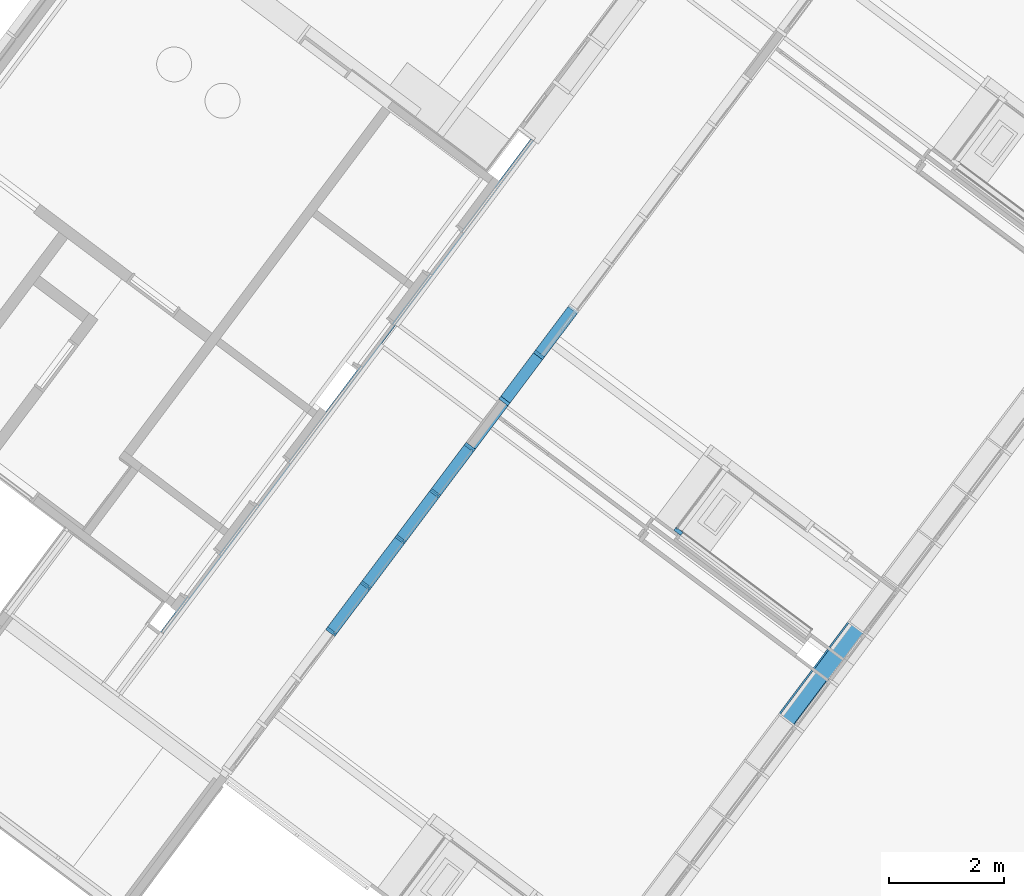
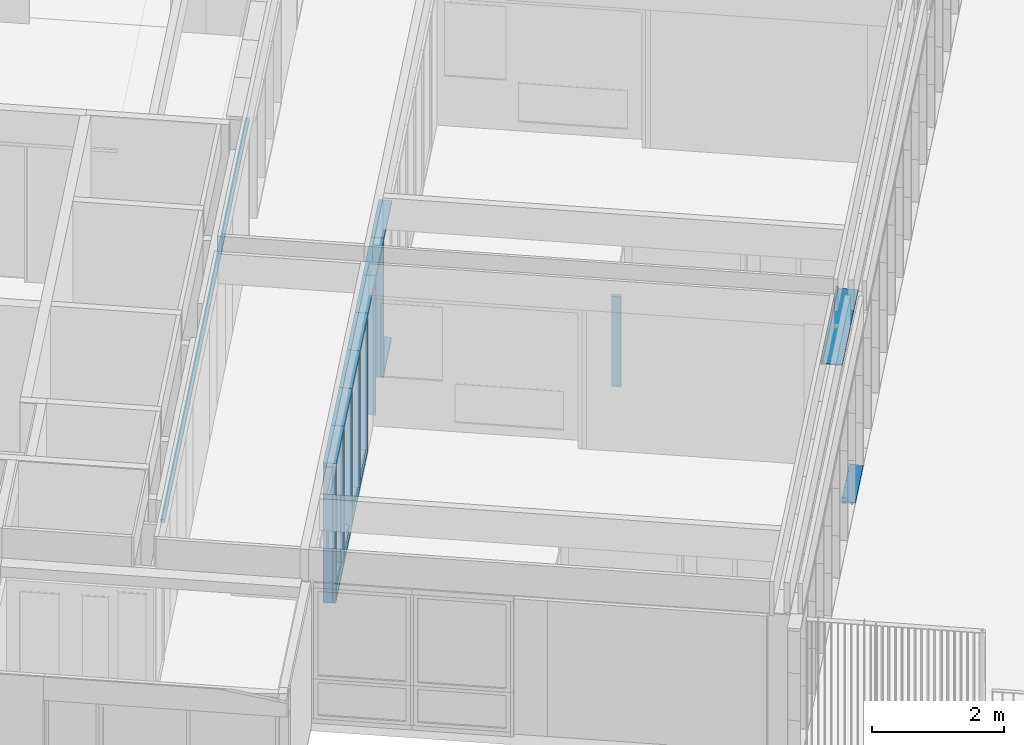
# One storey, part 12 of 243: 23 members, 5 elements without a shape of their own.
"""IFC2X3 building model written with IfcOpenShell, lengths in metres."""

from ifc_helpers import new_model, entity, si_unit, converted_unit, derived_unit, direction, frame, frame_2d, origin, place, context, subcontext, project, spatial, polyline, circle_curve, parameter, trimmed, segment, composite_curve, rectangle, outline, extrude, source, transform, mapped, material, type_object, type_shapes, element, aggregate, save


model = new_model("IFC2X3")

# Units and contexts
model_context = context("Model", 3, precision=1e-05, world=origin(), true_north=direction((6.123031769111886e-17, 1.0)))
body_context = subcontext(model_context, "Body", "Model", "MODEL_VIEW")
ifc_project = project(units=[si_unit("LENGTHUNIT", "METRE"), si_unit("AREAUNIT", "SQUARE_METRE"), si_unit("VOLUMEUNIT", "CUBIC_METRE"), converted_unit("PLANEANGLEUNIT", "DEGREE", entity("IfcRatioMeasure", 0.017453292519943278), si_unit("PLANEANGLEUNIT", "RADIAN"), dimensions=[0, 0, 0, 0, 0, 0, 0]), si_unit("MASSUNIT", "GRAM", prefix="KILO"), derived_unit("MASSDENSITYUNIT", [(si_unit("MASSUNIT", "GRAM", prefix="KILO"), 1), (si_unit("LENGTHUNIT", "METRE"), -3)]), derived_unit("IONCONCENTRATIONUNIT", [(si_unit("MASSUNIT", "GRAM", prefix="KILO"), 1), (si_unit("LENGTHUNIT", "METRE"), -3)]), derived_unit("MOMENTOFINERTIAUNIT", [(si_unit("LENGTHUNIT", "METRE"), 4)]), si_unit("TIMEUNIT", "SECOND"), si_unit("FREQUENCYUNIT", "HERTZ"), si_unit("THERMODYNAMICTEMPERATUREUNIT", "DEGREE_CELSIUS"), derived_unit("THERMALTRANSMITTANCEUNIT", [(si_unit("MASSUNIT", "GRAM", prefix="KILO"), 1), (si_unit("THERMODYNAMICTEMPERATUREUNIT", "KELVIN"), -1), (si_unit("TIMEUNIT", "SECOND"), -3)]), derived_unit("THERMALCONDUCTANCEUNIT", [(si_unit("MASSUNIT", "GRAM", prefix="KILO"), 1), (si_unit("THERMODYNAMICTEMPERATUREUNIT", "KELVIN"), -1), (si_unit("TIMEUNIT", "SECOND"), -3), (si_unit("LENGTHUNIT", "METRE"), 1)]), derived_unit("VOLUMETRICFLOWRATEUNIT", [(si_unit("LENGTHUNIT", "METRE"), 3), (si_unit("TIMEUNIT", "SECOND"), -1)]), derived_unit("MASSFLOWRATEUNIT", [(si_unit("MASSUNIT", "GRAM", prefix="KILO"), 1), (si_unit("TIMEUNIT", "SECOND"), -1)]), derived_unit("ROTATIONALFREQUENCYUNIT", [(si_unit("TIMEUNIT", "SECOND"), -1)]), si_unit("ELECTRICCURRENTUNIT", "AMPERE"), si_unit("ELECTRICVOLTAGEUNIT", "VOLT"), si_unit("POWERUNIT", "WATT"), si_unit("FORCEUNIT", "NEWTON", prefix="KILO"), si_unit("ILLUMINANCEUNIT", "LUX"), si_unit("LUMINOUSFLUXUNIT", "LUMEN"), si_unit("LUMINOUSINTENSITYUNIT", "CANDELA"), derived_unit("USERDEFINED", [(si_unit("MASSUNIT", "GRAM", prefix="KILO"), -1), (si_unit("LENGTHUNIT", "METRE"), -2), (si_unit("TIMEUNIT", "SECOND"), 3), (si_unit("LUMINOUSFLUXUNIT", "LUMEN"), 1)]), derived_unit("USERDEFINED", [(si_unit("MASSUNIT", "GRAM", prefix="KILO"), 1), (si_unit("TIMEUNIT", "SECOND"), -3), (si_unit("LENGTHUNIT", "METRE"), 3), (si_unit("ELECTRICCURRENTUNIT", "AMPERE"), -2)]), derived_unit("SOUNDPOWERUNIT", [(si_unit("MASSUNIT", "GRAM", prefix="KILO"), 1), (si_unit("TIMEUNIT", "SECOND"), -3), (si_unit("LENGTHUNIT", "METRE"), 2)]), derived_unit("SOUNDPRESSUREUNIT", [(si_unit("MASSUNIT", "GRAM", prefix="KILO"), 1), (si_unit("LENGTHUNIT", "METRE"), -1), (si_unit("TIMEUNIT", "SECOND"), -2)]), derived_unit("LINEARVELOCITYUNIT", [(si_unit("LENGTHUNIT", "METRE"), 1), (si_unit("TIMEUNIT", "SECOND"), -1)]), si_unit("PRESSUREUNIT", "PASCAL"), derived_unit("USERDEFINED", [(si_unit("MASSUNIT", "GRAM", prefix="KILO"), 1), (si_unit("LENGTHUNIT", "METRE"), -2), (si_unit("TIMEUNIT", "SECOND"), -2)]), derived_unit("LINEARFORCEUNIT", [(si_unit("MASSUNIT", "GRAM", prefix="KILO"), 1), (si_unit("TIMEUNIT", "SECOND"), -2)]), derived_unit("PLANARFORCEUNIT", [(si_unit("MASSUNIT", "GRAM", prefix="KILO"), 1), (si_unit("LENGTHUNIT", "METRE"), -1), (si_unit("TIMEUNIT", "SECOND"), -2)]), derived_unit("SPECIFICHEATCAPACITYUNIT", [(si_unit("THERMODYNAMICTEMPERATUREUNIT", "KELVIN"), -1), (si_unit("LENGTHUNIT", "METRE"), 2), (si_unit("TIMEUNIT", "SECOND"), -2)]), derived_unit("HEATINGVALUEUNIT", [(si_unit("LENGTHUNIT", "METRE"), 2), (si_unit("TIMEUNIT", "SECOND"), -2)]), derived_unit("VAPORPERMEABILITYUNIT", [(si_unit("LENGTHUNIT", "METRE"), -1), (si_unit("TIMEUNIT", "SECOND"), 1)]), derived_unit("DYNAMICVISCOSITYUNIT", [(si_unit("MASSUNIT", "GRAM", prefix="KILO"), 1), (si_unit("TIMEUNIT", "SECOND"), -1), (si_unit("LENGTHUNIT", "METRE"), -1)]), derived_unit("THERMALEXPANSIONCOEFFICIENTUNIT", [(si_unit("THERMODYNAMICTEMPERATUREUNIT", "KELVIN"), -1)]), derived_unit("MODULUSOFELASTICITYUNIT", [(si_unit("MASSUNIT", "GRAM", prefix="KILO"), 1), (si_unit("LENGTHUNIT", "METRE"), -1), (si_unit("TIMEUNIT", "SECOND"), -2)]), derived_unit("ISOTHERMALMOISTURECAPACITYUNIT", [(si_unit("LENGTHUNIT", "METRE"), 3), (si_unit("MASSUNIT", "GRAM", prefix="KILO"), -1)]), derived_unit("MOISTUREDIFFUSIVITYUNIT", [(si_unit("TIMEUNIT", "SECOND"), -1), (si_unit("LENGTHUNIT", "METRE"), 2)])], contexts=[model_context])

# Site, building, storey
site_placement = place(None, frame((0.0, 0.0, 235.0), z_axis=(0.0, 0.0, 1.0), x_axis=(-0.7996477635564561, 0.6004693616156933, 0.0)))
site = spatial("IfcSite", under=ifc_project, at=site_placement, Name="Default", CompositionType="ELEMENT")
building_placement = place(site_placement, origin())
building = spatial("IfcBuilding", under=site, at=building_placement, CompositionType="ELEMENT")
storey_placement = place(building_placement, origin())
storey = spatial("IfcBuildingStorey", under=building, at=storey_placement, Name="P0- Escola", CompositionType="ELEMENT", Elevation=0.0)

# Curtain wall, members
curtain_wall_type_1 = type_object("IfcCurtainWallType", Name="Muro cortina:MC- INT- a3", PredefinedType="NOTDEFINED")
curtain_wall_1_placement = place(storey_placement, origin())
curtain_wall_1 = element("IfcCurtainWall", 1, at=curtain_wall_1_placement, inside=storey, type_object=curtain_wall_type_1, Name="Muro cortina:MC- INT- a3", ObjectType="Muro cortina:MC- INT- a3")
ifc_material_1 = material(Name="_Fusta massisa- T1")
member_type_1 = type_object("IfcMemberType", Name="Montante rectangular:MC- Fusta- 20x6 cm- Centre", PredefinedType="MULLION", material=ifc_material_1)
shared_shape_1 = source(origin(), body_context, "Body", "SweptSolid", [
    extrude(outline(polyline([(-0.14, -0.03), (0.009999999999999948, -0.03), (0.009999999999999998, -0.014999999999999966), (0.030000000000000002, -0.015), (0.030000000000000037, -0.030000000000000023), (0.060000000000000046, -0.029999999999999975), (0.059999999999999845, 0.030000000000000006), (0.030000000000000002, 0.029999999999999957), (0.030000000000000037, 0.015), (0.010000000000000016, 0.015), (0.010000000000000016, 0.03), (-0.14, 0.03), (-0.14, -0.03)])), frame((0.0, 0.019999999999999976, -2.505000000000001), z_axis=(0.0, 0.0, 1.0), x_axis=(0.0, -1.0, 0.0)), (0.0, 0.0, 1.0), 2.5050000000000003),
])
type_shapes(member_type_1, [shared_shape_1])
member_1_placement = place(curtain_wall_1_placement, frame((13.279147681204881, -24.470191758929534, 0.0), z_axis=(0.0, 0.0, -1.0), x_axis=(0.0, 1.0, 0.0)))
member_1 = element("IfcMember", 2, at=member_1_placement, type_object=member_type_1, material=ifc_material_1, Name="Montante rectangular:MC- Fusta- 20x6 cm- Centre", ObjectType="Montante rectangular:MC- Fusta- 20x6 cm- Centre", context=body_context, shape_type="MappedRepresentation", body=[
    mapped(shared_shape_1, transform((0.0, 0.0, 0.0), scale=1.0)),
])
member_2_placement = place(curtain_wall_1_placement, frame((13.27914768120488, -23.47019175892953, 0.0), z_axis=(0.0, 0.0, -1.0), x_axis=(0.0, 1.0, 0.0)))
member_2 = element("IfcMember", 3, at=member_2_placement, type_object=member_type_1, material=ifc_material_1, Name="Montante rectangular:MC- Fusta- 20x6 cm- Centre", ObjectType="Montante rectangular:MC- Fusta- 20x6 cm- Centre", context=body_context, shape_type="MappedRepresentation", body=[
    mapped(shared_shape_1, transform((0.0, 0.0, 0.0), scale=1.0)),
])
member_3_placement = place(curtain_wall_1_placement, frame((13.27914768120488, -22.470191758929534, 0.0), z_axis=(0.0, 0.0, -1.0), x_axis=(0.0, 1.0, 0.0)))
member_3 = element("IfcMember", 4, at=member_3_placement, type_object=member_type_1, material=ifc_material_1, Name="Montante rectangular:MC- Fusta- 20x6 cm- Centre", ObjectType="Montante rectangular:MC- Fusta- 20x6 cm- Centre", context=body_context, shape_type="MappedRepresentation", body=[
    mapped(shared_shape_1, transform((0.0, 0.0, 0.0), scale=1.0)),
])
member_4_placement = place(curtain_wall_1_placement, frame((13.279147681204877, -21.470191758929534, 0.0), z_axis=(0.0, 0.0, -1.0), x_axis=(0.0, 1.0, 0.0)))
member_4 = element("IfcMember", 5, at=member_4_placement, type_object=member_type_1, material=ifc_material_1, Name="Montante rectangular:MC- Fusta- 20x6 cm- Centre", ObjectType="Montante rectangular:MC- Fusta- 20x6 cm- Centre", context=body_context, shape_type="MappedRepresentation", body=[
    mapped(shared_shape_1, transform((0.0, 0.0, 0.0), scale=1.0)),
])
member_type_2 = type_object("IfcMemberType", Name="Montante rectangular:MC- Fusta- 20x6 cm- Esquerra", PredefinedType="MULLION", material=ifc_material_1)
shared_shape_2 = source(origin(), body_context, "Body", "SweptSolid", [
    extrude(outline(polyline([(-0.12999999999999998, -0.018750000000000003), (0.019999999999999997, -0.018750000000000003), (0.019999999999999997, -0.003750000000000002), (0.04000000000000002, -0.003750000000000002), (0.04000000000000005, -0.01875000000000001), (0.07000000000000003, -0.018750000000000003), (0.06999999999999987, 0.041249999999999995), (-0.12999999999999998, 0.041249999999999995), (-0.12999999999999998, -0.018750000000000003)])), frame((-0.041249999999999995, 0.029999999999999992, -1.0), z_axis=(0.0, 0.0, 1.0), x_axis=(0.0, -1.0, 0.0)), (0.0, 0.0, 1.0), 0.9999999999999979),
])
type_shapes(member_type_2, [shared_shape_2])
member_5_placement = place(curtain_wall_1_placement, frame((13.27914768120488, -23.47019175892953, 2.565), z_axis=(0.0, 1.0, 0.0), x_axis=(0.0, 0.0, 1.0)))
member_5 = element("IfcMember", 6, at=member_5_placement, type_object=member_type_2, material=ifc_material_1, Name="Montante rectangular:MC- Fusta- 20x6 cm- Esquerra", ObjectType="Montante rectangular:MC- Fusta- 20x6 cm- Esquerra", context=body_context, shape_type="MappedRepresentation", body=[
    mapped(shared_shape_2, transform((0.0, 0.0, 0.0), scale=1.0)),
])
member_6_placement = place(curtain_wall_1_placement, frame((13.27914768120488, -22.470191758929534, 2.565), z_axis=(0.0, 1.0, 0.0), x_axis=(0.0, 0.0, 1.0)))
member_6 = element("IfcMember", 7, at=member_6_placement, type_object=member_type_2, material=ifc_material_1, Name="Montante rectangular:MC- Fusta- 20x6 cm- Esquerra", ObjectType="Montante rectangular:MC- Fusta- 20x6 cm- Esquerra", context=body_context, shape_type="MappedRepresentation", body=[
    mapped(shared_shape_2, transform((0.0, 0.0, 0.0), scale=1.0)),
])
member_7_placement = place(curtain_wall_1_placement, frame((13.279147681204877, -21.470191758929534, 2.565), z_axis=(0.0, 1.0, 0.0), x_axis=(0.0, 0.0, 1.0)))
member_7 = element("IfcMember", 8, at=member_7_placement, type_object=member_type_2, material=ifc_material_1, Name="Montante rectangular:MC- Fusta- 20x6 cm- Esquerra", ObjectType="Montante rectangular:MC- Fusta- 20x6 cm- Esquerra", context=body_context, shape_type="MappedRepresentation", body=[
    mapped(shared_shape_2, transform((0.0, 0.0, 0.0), scale=1.0)),
])
member_type_3 = type_object("IfcMemberType", Name="Montante rectangular:MC- Fusta- 20x6 cm- Esquerra", PredefinedType="MULLION", material=ifc_material_1)
shared_shape_3 = source(origin(), body_context, "Body", "SweptSolid", [
    extrude(outline(polyline([(-0.13000000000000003, -0.018750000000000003), (0.020000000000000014, -0.018750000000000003), (0.020000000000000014, -0.003750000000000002), (0.040000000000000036, -0.003750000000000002), (0.04000000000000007, -0.01875000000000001), (0.07000000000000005, -0.018750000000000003), (0.06999999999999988, 0.041249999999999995), (-0.13000000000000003, 0.041249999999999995), (-0.13000000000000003, -0.018750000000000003)])), frame((-0.041249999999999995, 0.030000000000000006, -1.0), z_axis=(0.0, 0.0, 1.0), x_axis=(0.0, -1.0, 0.0)), (0.0, 0.0, 1.0), 0.9999999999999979),
])
type_shapes(member_type_3, [shared_shape_3])
member_8_placement = place(curtain_wall_1_placement, frame((13.279147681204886, -27.470191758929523, 2.565), z_axis=(0.0, 1.0, 0.0), x_axis=(0.0, 0.0, 1.0)))
member_8 = element("IfcMember", 9, at=member_8_placement, type_object=member_type_3, material=ifc_material_1, Name="Montante rectangular:MC- Fusta- 20x6 cm- Esquerra", ObjectType="Montante rectangular:MC- Fusta- 20x6 cm- Esquerra", context=body_context, shape_type="MappedRepresentation", body=[
    mapped(shared_shape_3, transform((0.0, 0.0, 0.0), scale=1.0)),
])
member_type_4 = type_object("IfcMemberType", Name="Montante rectangular:MC- Fusta- 20x6 cm- Neutre", PredefinedType="MULLION", material=ifc_material_1)
shared_shape_4 = source(origin(), body_context, "Body", "SweptSolid", [
    extrude(rectangle(XDim=0.2, YDim=0.06, at=frame_2d((-5.551115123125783e-17, 0.0), x_axis=(1.0, 0.0))), frame((0.0, 0.060000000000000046, -2.5050000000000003), z_axis=(0.0, 0.0, 1.0), x_axis=(0.0, -1.0, 0.0)), (0.0, 0.0, 1.0), 2.5050000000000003),
])
type_shapes(member_type_4, [shared_shape_4])
member_9_placement = place(curtain_wall_1_placement, frame((13.279147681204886, -27.470191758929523, 0.0), z_axis=(0.0, 0.0, -1.0), x_axis=(0.0, 1.0, 0.0)))
member_9 = element("IfcMember", 10, at=member_9_placement, type_object=member_type_4, material=ifc_material_1, Name="Montante rectangular:MC- Fusta- 20x6 cm- Neutre", ObjectType="Montante rectangular:MC- Fusta- 20x6 cm- Neutre", context=body_context, shape_type="MappedRepresentation", body=[
    mapped(shared_shape_4, transform((0.0, 0.0, 0.0), scale=1.0)),
])
member_type_5 = type_object("IfcMemberType", Name="Montante rectangular:MC- Fusta- 20x6 cm- Esquerra", PredefinedType="MULLION", material=ifc_material_1)
shared_shape_5 = source(origin(), body_context, "Body", "SweptSolid", [
    extrude(outline(polyline([(-0.13, -0.018750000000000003), (0.02, -0.018750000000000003), (0.02, -0.003750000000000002), (0.04000000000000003, -0.003750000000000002), (0.04000000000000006, -0.01875000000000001), (0.07000000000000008, -0.018750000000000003), (0.06999999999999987, 0.041249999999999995), (-0.13, 0.041249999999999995), (-0.13, -0.018750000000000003)])), frame((-0.041249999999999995, 0.029999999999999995, -1.0), z_axis=(0.0, 0.0, 1.0), x_axis=(0.0, -1.0, 0.0)), (0.0, 0.0, 1.0), 0.9999999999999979),
])
type_shapes(member_type_5, [shared_shape_5])
member_10_placement = place(curtain_wall_1_placement, frame((13.279147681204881, -24.470191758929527, 2.565), z_axis=(0.0, 1.0, 0.0), x_axis=(0.0, 0.0, 1.0)))
member_10 = element("IfcMember", 11, at=member_10_placement, type_object=member_type_5, material=ifc_material_1, Name="Montante rectangular:MC- Fusta- 20x6 cm- Esquerra", ObjectType="Montante rectangular:MC- Fusta- 20x6 cm- Esquerra", context=body_context, shape_type="MappedRepresentation", body=[
    mapped(shared_shape_5, transform((0.0, 0.0, 0.0), scale=1.0)),
])
member_type_6 = type_object("IfcMemberType", Name="Montante rectangular:MC- Fusta- 20x6 cm- Neutre", PredefinedType="MULLION", material=ifc_material_1)
shared_shape_6 = source(origin(), body_context, "Body", "SweptSolid", [
    extrude(rectangle(XDim=0.2, YDim=0.06, at=frame_2d((-5.551115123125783e-17, 0.0), x_axis=(1.0, 0.0))), frame((0.0, 0.060000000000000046, -2.5050000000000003), z_axis=(0.0, 0.0, 1.0), x_axis=(0.0, -1.0, 0.0)), (0.0, 0.0, 1.0), 2.5050000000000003),
])
type_shapes(member_type_6, [shared_shape_6])
member_11_placement = place(curtain_wall_1_placement, frame((13.279147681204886, -26.470191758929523, 0.0), z_axis=(0.0, 0.0, -1.0), x_axis=(0.0, 1.0, 0.0)))
member_11 = element("IfcMember", 12, at=member_11_placement, type_object=member_type_6, material=ifc_material_1, Name="Montante rectangular:MC- Fusta- 20x6 cm- Neutre", ObjectType="Montante rectangular:MC- Fusta- 20x6 cm- Neutre", context=body_context, shape_type="MappedRepresentation", body=[
    mapped(shared_shape_6, transform((0.0, 0.0, 0.0), scale=1.0)),
])
member_type_7 = type_object("IfcMemberType", Name="Montante rectangular:MC- Fusta- 20x6 cm- Neutre", PredefinedType="MULLION", material=ifc_material_1)
shared_shape_7 = source(origin(), body_context, "Body", "SweptSolid", [
    extrude(rectangle(XDim=0.20000000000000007, YDim=0.06, at=frame_2d((-5.551115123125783e-17, 0.0), x_axis=(1.0, 0.0))), frame((-0.03, 0.06000000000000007, -1.0), z_axis=(0.0, 0.0, 1.0), x_axis=(0.0, -1.0, 0.0)), (0.0, 0.0, 1.0), 0.9999999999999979),
])
type_shapes(member_type_7, [shared_shape_7])
member_12_placement = place(curtain_wall_1_placement, frame((13.279147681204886, -26.470191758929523, 2.565), z_axis=(0.0, 1.0, 0.0), x_axis=(0.0, 0.0, 1.0)))
member_12 = element("IfcMember", 13, at=member_12_placement, type_object=member_type_7, material=ifc_material_1, Name="Montante rectangular:MC- Fusta- 20x6 cm- Neutre", ObjectType="Montante rectangular:MC- Fusta- 20x6 cm- Neutre", context=body_context, shape_type="MappedRepresentation", body=[
    mapped(shared_shape_7, transform((0.0, 0.0, 0.0), scale=1.0)),
])
member_type_8 = type_object("IfcMemberType", Name="Montante rectangular:MC- Fusta- 20x6 cm- Neutre", PredefinedType="MULLION", material=ifc_material_1)
shared_shape_8 = source(origin(), body_context, "Body", "SweptSolid", [
    extrude(rectangle(XDim=0.19999999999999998, YDim=0.06, at=frame_2d((-4.85722573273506e-17, 0.0), x_axis=(1.0, 0.0))), frame((-0.03, 0.06000000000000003, -1.0), z_axis=(0.0, 0.0, 1.0), x_axis=(0.0, -1.0, 0.0)), (0.0, 0.0, 1.0), 0.9999999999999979),
])
type_shapes(member_type_8, [shared_shape_8])
member_13_placement = place(curtain_wall_1_placement, frame((13.279147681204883, -25.470191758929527, 2.565), z_axis=(0.0, 1.0, 0.0), x_axis=(0.0, 0.0, 1.0)))
member_13 = element("IfcMember", 14, at=member_13_placement, type_object=member_type_8, material=ifc_material_1, Name="Montante rectangular:MC- Fusta- 20x6 cm- Neutre", ObjectType="Montante rectangular:MC- Fusta- 20x6 cm- Neutre", context=body_context, shape_type="MappedRepresentation", body=[
    mapped(shared_shape_8, transform((0.0, 0.0, 0.0), scale=1.0)),
])
member_type_9 = type_object("IfcMemberType", Name="Montante rectangular:MC- Fusta- 20x6 cm- Dreta", PredefinedType="MULLION", material=ifc_material_1)
shared_shape_9 = source(origin(), body_context, "Body", "SweptSolid", [
    extrude(outline(polyline([(-0.13000000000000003, -0.041249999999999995), (0.07000000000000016, -0.041249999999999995), (0.06999999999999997, 0.01875), (0.039999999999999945, 0.01875), (0.03999999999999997, 0.00375), (0.019999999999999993, 0.00375), (0.019999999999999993, 0.01875), (-0.13000000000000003, 0.01875), (-0.13000000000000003, -0.041249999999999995)])), frame((0.011250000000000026, 0.029999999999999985, -2.5050000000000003), z_axis=(0.0, 0.0, 1.0), x_axis=(0.0, -1.0, 0.0)), (0.0, 0.0, 1.0), 2.5050000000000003),
])
type_shapes(member_type_9, [shared_shape_9])
member_14_placement = place(curtain_wall_1_placement, frame((13.279147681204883, -25.470191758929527, 0.0), z_axis=(0.0, 0.0, -1.0), x_axis=(0.0, 1.0, 0.0)))
member_14 = element("IfcMember", 15, at=member_14_placement, type_object=member_type_9, material=ifc_material_1, Name="Montante rectangular:MC- Fusta- 20x6 cm- Dreta", ObjectType="Montante rectangular:MC- Fusta- 20x6 cm- Dreta", context=body_context, shape_type="MappedRepresentation", body=[
    mapped(shared_shape_9, transform((0.0, 0.0, 0.0), scale=1.0)),
])
member_type_10 = type_object("IfcMemberType", Name="Montante rectangular:MC- Fusta- 20x6 cm- Inferior", PredefinedType="MULLION", material=ifc_material_1)
shared_shape_10 = source(origin(), body_context, "Body", "SweptSolid", [
    extrude(outline(polyline([(-0.12999999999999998, -0.018750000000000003), (0.01999999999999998, -0.018750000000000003), (0.01999999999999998, -0.0037500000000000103), (0.04, -0.0037500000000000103), (0.039999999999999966, -0.018750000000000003), (0.06999999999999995, -0.018750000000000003), (0.07000000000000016, 0.041249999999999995), (-0.12999999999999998, 0.041249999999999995), (-0.12999999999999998, -0.018750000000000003)])), frame((-0.041249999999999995, 0.029999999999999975, -0.9399999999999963), z_axis=(0.0, 0.0, 1.0), x_axis=(0.0, -1.0, 0.0)), (0.0, 0.0, 1.0), 0.9399999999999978),
])
type_shapes(member_type_10, [shared_shape_10])
member_15_placement = place(curtain_wall_1_placement, frame((13.279147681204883, -25.440191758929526, 0.0), z_axis=(0.0, -1.0, 0.0), x_axis=(0.0, 0.0, -1.0)))
member_15 = element("IfcMember", 16, at=member_15_placement, type_object=member_type_10, material=ifc_material_1, Name="Montante rectangular:MC- Fusta- 20x6 cm- Inferior", ObjectType="Montante rectangular:MC- Fusta- 20x6 cm- Inferior", context=body_context, shape_type="MappedRepresentation", body=[
    mapped(shared_shape_10, transform((0.0, 0.0, 0.0), scale=1.0)),
])
member_16_placement = place(curtain_wall_1_placement, frame((13.279147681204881, -24.440191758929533, 0.0), z_axis=(0.0, -1.0, 0.0), x_axis=(0.0, 0.0, -1.0)))
member_16 = element("IfcMember", 17, at=member_16_placement, type_object=member_type_10, material=ifc_material_1, Name="Montante rectangular:MC- Fusta- 20x6 cm- Inferior", ObjectType="Montante rectangular:MC- Fusta- 20x6 cm- Inferior", context=body_context, shape_type="MappedRepresentation", body=[
    mapped(shared_shape_10, transform((0.0, 0.0, 0.0), scale=1.0)),
])
member_17_placement = place(curtain_wall_1_placement, frame((13.27914768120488, -23.44019175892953, 0.0), z_axis=(0.0, -1.0, 0.0), x_axis=(0.0, 0.0, -1.0)))
member_17 = element("IfcMember", 18, at=member_17_placement, type_object=member_type_10, material=ifc_material_1, Name="Montante rectangular:MC- Fusta- 20x6 cm- Inferior", ObjectType="Montante rectangular:MC- Fusta- 20x6 cm- Inferior", context=body_context, shape_type="MappedRepresentation", body=[
    mapped(shared_shape_10, transform((0.0, 0.0, 0.0), scale=1.0)),
])
member_18_placement = place(curtain_wall_1_placement, frame((13.27914768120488, -22.44019175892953, 0.0), z_axis=(0.0, -1.0, 0.0), x_axis=(0.0, 0.0, -1.0)))
member_18 = element("IfcMember", 19, at=member_18_placement, type_object=member_type_10, material=ifc_material_1, Name="Montante rectangular:MC- Fusta- 20x6 cm- Inferior", ObjectType="Montante rectangular:MC- Fusta- 20x6 cm- Inferior", context=body_context, shape_type="MappedRepresentation", body=[
    mapped(shared_shape_10, transform((0.0, 0.0, 0.0), scale=1.0)),
])
member_type_11 = type_object("IfcMemberType", Name="Montante rectangular:MC- Fusta- 20x6 cm- Neutre", PredefinedType="MULLION", material=ifc_material_1)
shared_shape_11 = source(origin(), body_context, "Body", "SweptSolid", [
    extrude(rectangle(XDim=0.19999999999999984, YDim=0.06, at=frame_2d((4.85722573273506e-17, 0.0), x_axis=(1.0, 0.0))), frame((-0.03, 0.06000000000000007, -0.9399999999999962), z_axis=(0.0, 0.0, 1.0), x_axis=(0.0, -1.0, 0.0)), (0.0, 0.0, 1.0), 0.9399999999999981),
])
type_shapes(member_type_11, [shared_shape_11])
member_19_placement = place(curtain_wall_1_placement, frame((13.279147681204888, -28.44019175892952, 0.0), z_axis=(0.0, -1.0, 0.0), x_axis=(0.0, 0.0, -1.0)))
member_19 = element("IfcMember", 20, at=member_19_placement, type_object=member_type_11, material=ifc_material_1, Name="Montante rectangular:MC- Fusta- 20x6 cm- Neutre", ObjectType="Montante rectangular:MC- Fusta- 20x6 cm- Neutre", context=body_context, shape_type="MappedRepresentation", body=[
    mapped(shared_shape_11, transform((0.0, 0.0, 0.0), scale=1.0)),
])
aggregate(curtain_wall_1, [member_8, member_9, member_12, member_11, member_13, member_14, member_10, member_1, member_5, member_2, member_6, member_3, member_7, member_4, member_19, member_15, member_16, member_17, member_18])

# Curtain wall, member
curtain_wall_type_2 = type_object("IfcCurtainWallType", Name="Muro cortina:MC- INT- a4- 5cm", PredefinedType="NOTDEFINED")
curtain_wall_2_placement = place(storey_placement, origin())
curtain_wall_2 = element("IfcCurtainWall", 21, at=curtain_wall_2_placement, inside=storey, type_object=curtain_wall_type_2, Name="Muro cortina:MC- INT- a4- 5cm", ObjectType="Muro cortina:MC- INT- a4- 5cm")
member_type_12 = type_object("IfcMemberType", Name="Montante rectangular:MC- Fusta- 15x6 cm- Neutre", PredefinedType="MULLION", material=ifc_material_1)
shared_shape_12 = source(origin(), body_context, "Body", "SweptSolid", [
    extrude(rectangle(XDim=0.06499999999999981, YDim=0.059999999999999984, at=frame_2d((4.5102810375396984e-17, 3.469446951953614e-18), x_axis=(1.0, 0.0))), frame((-0.02999999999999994, 0.0, -10.69249909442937), z_axis=(0.0, 0.0, 1.0), x_axis=(0.0, -1.0, 0.0)), (0.0, 0.0, 1.0), 10.69249909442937),
])
type_shapes(member_type_12, [shared_shape_12])
member_20_placement = place(curtain_wall_2_placement, frame((15.670147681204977, -19.690191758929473, 2.565), z_axis=(0.0, 1.0, 0.0), x_axis=(0.0, 0.0, 1.0)))
member_20 = element("IfcMember", 22, at=member_20_placement, type_object=member_type_12, material=ifc_material_1, Name="Montante rectangular:MC- Fusta- 15x6 cm- Neutre", ObjectType="Montante rectangular:MC- Fusta- 15x6 cm- Neutre", context=body_context, shape_type="MappedRepresentation", body=[
    mapped(shared_shape_12, transform((0.0, 0.0, 0.0), scale=1.0)),
])
aggregate(curtain_wall_2, [member_20])

curtain_wall_type_3 = type_object("IfcCurtainWallType", Name="Muro cortina:MC- INT- k1", PredefinedType="NOTDEFINED")
curtain_wall_3_placement = place(storey_placement, origin())
curtain_wall_3 = element("IfcCurtainWall", 23, at=curtain_wall_3_placement, inside=storey, type_object=curtain_wall_type_3, Name="Muro cortina:MC- INT- k1", ObjectType="Muro cortina:MC- INT- k1")
member_type_13 = type_object("IfcMemberType", Name="Montante rectangular:MC- Fusta- 15x7- Esquerra", PredefinedType="MULLION", material=ifc_material_1)
shared_shape_13 = source(origin(), body_context, "Body", "SweptSolid", [
    extrude(outline(polyline([(-0.050499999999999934, -0.0224999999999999), (-0.034499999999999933, -0.0224999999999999), (-0.03449999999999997, -0.0024999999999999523), (-0.014499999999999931, -0.0024999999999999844), (-0.014499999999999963, -0.022499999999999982), (0.09949999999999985, -0.02250000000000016), (0.09949999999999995, 0.04749999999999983), (-0.05050000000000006, 0.04750000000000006), (-0.050499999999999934, -0.0224999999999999)])), frame((-0.04749999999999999, -0.024499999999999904, -1.665), z_axis=(0.0, 0.0, 1.0), x_axis=(0.0, -1.0, 0.0)), (0.0, 0.0, 1.0), 1.6649999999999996),
])
type_shapes(member_type_13, [shared_shape_13])
member_21_placement = place(curtain_wall_3_placement, frame((9.61914768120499, -26.440191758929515, 0.8399999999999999), z_axis=(0.0, 0.0, -1.0), x_axis=(0.0, 1.0, 0.0)))
member_21 = element("IfcMember", 24, at=member_21_placement, type_object=member_type_13, material=ifc_material_1, Name="Montante rectangular:MC- Fusta- 15x7- Esquerra", ObjectType="Montante rectangular:MC- Fusta- 15x7- Esquerra", context=body_context, shape_type="MappedRepresentation", body=[
    mapped(shared_shape_13, transform((0.0, 0.0, 0.0), scale=1.0)),
])
aggregate(curtain_wall_3, [member_21])

curtain_wall_type_4 = type_object("IfcCurtainWallType", Name="Muro cortina:MC- EXT- MC2", PredefinedType="NOTDEFINED")
curtain_wall_4_placement = place(storey_placement, origin())
curtain_wall_4 = element("IfcCurtainWall", 25, at=curtain_wall_4_placement, inside=storey, type_object=curtain_wall_type_4, Name="Muro cortina:MC- EXT- MC2", ObjectType="Muro cortina:MC- EXT- MC2")
ifc_material_2 = material(Name="_Alumini- T1- Perfil")
member_type_14 = type_object("IfcMemberType", Name="Montante rectangular:MC- Alu- 140x52,5 cm- Fa patis- inferior", PredefinedType="MULLION", material=ifc_material_2)
shared_shape_14 = source(origin(), body_context, "Body", "SweptSolid", [
    extrude(outline(composite_curve([segment(polyline([(0.12786724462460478, -0.02586710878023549), (0.14416724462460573, -0.025867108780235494)]), True, "CONTINUOUS"), segment(polyline([(0.14416724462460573, -0.025867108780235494), (0.14416724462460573, 0.009132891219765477)]), True, "CONTINUOUS"), segment(polyline([(0.14416724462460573, 0.009132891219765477), (0.06786724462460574, 0.009132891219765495)]), True, "CONTINUOUS"), segment(polyline([(0.06786724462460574, 0.009132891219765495), (0.06786724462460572, -0.021159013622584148)]), True, "CONTINUOUS"), segment(polyline([(0.06786724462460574, -0.02115901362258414), (-0.030132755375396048, -0.012332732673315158)]), True, "CONTINUOUS"), segment(polyline([(-0.030132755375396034, -0.012332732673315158), (-0.030132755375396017, 0.027132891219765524)]), True, "CONTINUOUS"), segment(polyline([(-0.03013275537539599, 0.02713289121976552), (-0.0021327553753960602, 0.02713289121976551)]), True, "CONTINUOUS"), segment(polyline([(-0.0021327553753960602, 0.027132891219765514), (-0.002132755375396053, 0.029132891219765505)]), True, "CONTINUOUS"), segment(polyline([(-0.002132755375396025, 0.029132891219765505), (-0.03213275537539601, 0.029132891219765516)]), True, "CONTINUOUS"), segment(polyline([(-0.03213275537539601, 0.029132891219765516), (-0.03213275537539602, -0.012152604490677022)]), True, "CONTINUOUS"), segment(polyline([(-0.03213275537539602, -0.012152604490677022), (-0.07013275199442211, -0.008730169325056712)]), True, "CONTINUOUS"), segment(polyline([(-0.07013275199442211, -0.008730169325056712), (-0.07013275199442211, 0.005766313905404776)]), True, "CONTINUOUS"), segment(trimmed(circle_curve(frame_2d((-0.06963275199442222, 0.005766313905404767), x_axis=(-1.0, 0.0)), 0.0004999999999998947), [parameter(270.0000000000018)], [parameter(0.0)], True, "PARAMETER"), False, "CONTINUOUS"), segment(polyline([(-0.06963275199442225, 0.00626631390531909), (-0.06213275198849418, 0.006266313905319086)]), True, "CONTINUOUS"), segment(polyline([(-0.06213275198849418, 0.006266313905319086), (-0.062132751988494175, 0.008266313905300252)]), True, "CONTINUOUS"), segment(polyline([(-0.062132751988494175, 0.008266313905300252), (-0.07013275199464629, 0.008266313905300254)]), True, "CONTINUOUS"), segment(trimmed(circle_curve(frame_2d((-0.07013275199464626, 0.006266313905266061), x_axis=(0.0, 1.0)), 0.0020000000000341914), [parameter(0.0)], [parameter(90.00000002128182)], True, "PARAMETER"), True, "CONTINUOUS"), segment(polyline([(-0.07213275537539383, 0.006266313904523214), (-0.07213275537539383, -0.008730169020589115)]), True, "CONTINUOUS"), segment(trimmed(circle_curve(frame_2d((-0.07013275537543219, -0.008730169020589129), x_axis=(-1.0, 0.0)), 0.001999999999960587), [parameter(0.0)], [parameter(84.85359280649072)], True, "PARAMETER"), True, "CONTINUOUS"), segment(polyline([(-0.07031215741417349, -0.01072210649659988), (0.06786724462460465, -0.023167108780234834)]), True, "CONTINUOUS"), segment(polyline([(0.06786724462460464, -0.023167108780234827), (0.12786724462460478, -0.023167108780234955)]), True, "CONTINUOUS"), segment(polyline([(0.12786724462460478, -0.023167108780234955), (0.12786724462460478, -0.02586710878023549)]), True, "CONTINUOUS")], self_intersect=False)), frame((-0.029132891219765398, 0.06786724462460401, -1.0), z_axis=(0.0, 0.0, 1.0), x_axis=(0.0, -1.0, 0.0)), (0.0, 0.0, 1.0), 1.0000000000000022),
])
type_shapes(member_type_14, [shared_shape_14])
member_22_placement = place(curtain_wall_4_placement, frame((5.8851476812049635, -24.990191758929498, -0.02), z_axis=(0.0, 1.0, 0.0), x_axis=(0.0, 0.0, -1.0)))
member_22 = element("IfcMember", 26, at=member_22_placement, type_object=member_type_14, material=ifc_material_2, Name="Montante rectangular:MC- Alu- 140x52,5 cm- Fa patis- inferior", ObjectType="Montante rectangular:MC- Alu- 140x52,5 cm- Fa patis- inferior", context=body_context, shape_type="MappedRepresentation", body=[
    mapped(shared_shape_14, transform((0.0, 0.0, 0.0), scale=1.0)),
])
aggregate(curtain_wall_4, [member_22])

curtain_wall_type_5 = type_object("IfcCurtainWallType", Name="Muro cortina:MC- INT- k7- Aules infantil", PredefinedType="NOTDEFINED")
curtain_wall_5_placement = place(storey_placement, origin())
curtain_wall_5 = element("IfcCurtainWall", 27, at=curtain_wall_5_placement, inside=storey, type_object=curtain_wall_type_5, Name="Muro cortina:MC- INT- k7- Aules infantil", ObjectType="Muro cortina:MC- INT- k7- Aules infantil")
member_type_15 = type_object("IfcMemberType", Name="Montante rectangular:MC- Fusta- 35x3 cm- Pati aules- Remat superior", PredefinedType="MULLION", material=ifc_material_1)
shared_shape_15 = source(origin(), body_context, "Body", "SweptSolid", [
    extrude(outline(polyline([(-0.21333333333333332, -0.02666666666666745), (0.12166666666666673, -0.02666666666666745), (0.12166666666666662, 0.03333333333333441), (0.09166666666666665, 0.03333333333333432), (0.09166666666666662, -0.006666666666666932), (-0.21333333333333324, -0.006666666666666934), (-0.21333333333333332, -0.02666666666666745)])), frame((-0.033333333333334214, 0.026666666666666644, -2.0), z_axis=(0.0, 0.0, 1.0), x_axis=(0.0, -1.0, 0.0)), (0.0, 0.0, 1.0), 1.9999999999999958),
])
type_shapes(member_type_15, [shared_shape_15])
member_23_placement = place(curtain_wall_5_placement, frame((6.185147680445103, -26.99019175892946, 2.6), z_axis=(0.0, -1.0, 0.0), x_axis=(0.0, 0.0, 1.0)))
member_23 = element("IfcMember", 28, at=member_23_placement, type_object=member_type_15, material=ifc_material_1, Name="Montante rectangular:MC- Fusta- 35x3 cm- Pati aules- Remat superior", ObjectType="Montante rectangular:MC- Fusta- 35x3 cm- Pati aules- Remat superior", context=body_context, shape_type="MappedRepresentation", body=[
    mapped(shared_shape_15, transform((0.0, 0.0, 0.0), scale=1.0)),
])
aggregate(curtain_wall_5, [member_23])

save(model, "model.ifc")
